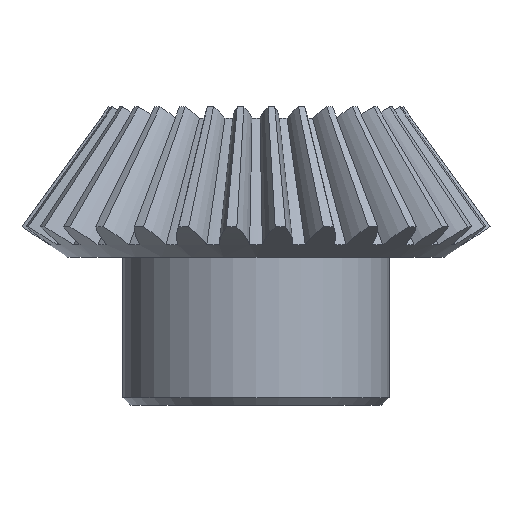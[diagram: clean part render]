
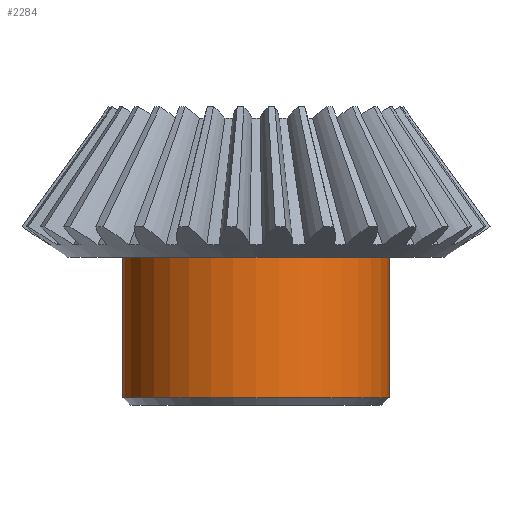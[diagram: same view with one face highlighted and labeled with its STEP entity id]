
A CAD part, front view. The second image highlights one B-rep face of the part: STEP entity #2284.
In plain terms, the highlighted cylindrical face has radius 18 mm (diameter 36 mm), a full revolution.
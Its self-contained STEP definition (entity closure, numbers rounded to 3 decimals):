
#336=LINE('',#3133,#351);
#351=VECTOR('',#2686,18.);
#357=CYLINDRICAL_SURFACE('',#2449,18.);
#366=FACE_OUTER_BOUND('',#502,.T.);
#502=EDGE_LOOP('',(#1460,#1461,#1462,#1463,#1464));
#638=CIRCLE('',#2447,18.);
#639=CIRCLE('',#2448,18.);
#640=CIRCLE('',#2450,18.);
#784=VERTEX_POINT('',#3126);
#785=VERTEX_POINT('',#3128);
#786=VERTEX_POINT('',#3132);
#1052=EDGE_CURVE('',#784,#785,#638,.T.);
#1053=EDGE_CURVE('',#785,#784,#639,.T.);
#1054=EDGE_CURVE('',#785,#786,#336,.T.);
#1055=EDGE_CURVE('',#786,#786,#640,.T.);
#1460=ORIENTED_EDGE('',*,*,#1052,.F.);
#1461=ORIENTED_EDGE('',*,*,#1053,.F.);
#1462=ORIENTED_EDGE('',*,*,#1054,.T.);
#1463=ORIENTED_EDGE('',*,*,#1055,.T.);
#1464=ORIENTED_EDGE('',*,*,#1054,.F.);
#2284=ADVANCED_FACE('',(#366),#357,.T.);
#2447=AXIS2_PLACEMENT_3D('',#3129,#2680,#2681);
#2448=AXIS2_PLACEMENT_3D('',#3130,#2682,#2683);
#2449=AXIS2_PLACEMENT_3D('',#3131,#2684,#2685);
#2450=AXIS2_PLACEMENT_3D('',#3134,#2687,#2688);
#2680=DIRECTION('center_axis',(0.,0.,-1.));
#2681=DIRECTION('ref_axis',(1.,0.,0.));
#2682=DIRECTION('center_axis',(0.,0.,-1.));
#2683=DIRECTION('ref_axis',(1.,0.,0.));
#2684=DIRECTION('center_axis',(0.,0.,-1.));
#2685=DIRECTION('ref_axis',(-1.,0.,0.));
#2686=DIRECTION('',(0.,0.,1.));
#2687=DIRECTION('center_axis',(0.,0.,-1.));
#2688=DIRECTION('ref_axis',(1.,0.,0.));
#3126=CARTESIAN_POINT('',(-18.,0.,-67.));
#3128=CARTESIAN_POINT('',(18.,0.,-67.));
#3129=CARTESIAN_POINT('Origin',(0.,0.,-67.));
#3130=CARTESIAN_POINT('Origin',(0.,0.,-67.));
#3131=CARTESIAN_POINT('Origin',(0.,0.,-58.));
#3132=CARTESIAN_POINT('',(18.,0.,-48.));
#3133=CARTESIAN_POINT('',(18.,0.,-58.));
#3134=CARTESIAN_POINT('Origin',(0.,0.,-48.));
